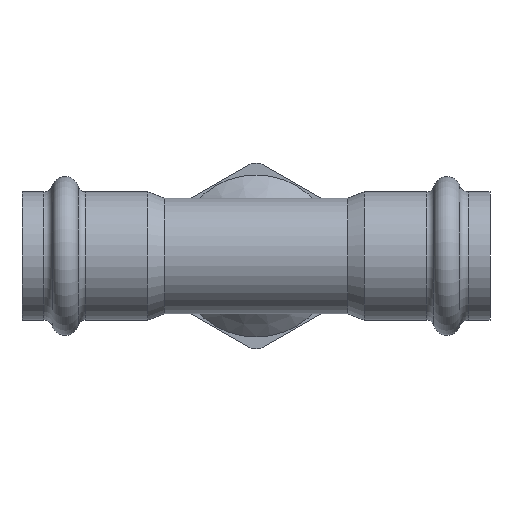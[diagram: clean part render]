
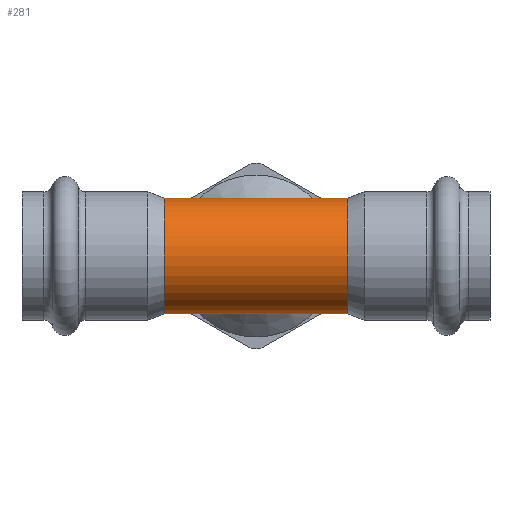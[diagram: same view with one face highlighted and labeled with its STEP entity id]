
A CAD part, front view. The second image highlights one B-rep face of the part: STEP entity #281.
In plain terms, the highlighted cylindrical face has radius 16 mm (diameter 32 mm), a full revolution.
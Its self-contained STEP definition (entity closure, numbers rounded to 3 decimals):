
#101=ELLIPSE('',#831,23.345,16.);
#102=ELLIPSE('',#832,23.345,16.);
#127=CYLINDRICAL_SURFACE('',#834,16.);
#163=FACE_BOUND('',#371,.T.);
#164=FACE_BOUND('',#372,.T.);
#165=FACE_BOUND('',#373,.T.);
#239=CIRCLE('',#829,16.);
#240=CIRCLE('',#833,16.);
#281=ADVANCED_FACE('',(#163,#164,#165),#127,.T.);
#371=EDGE_LOOP('',(#501,#502));
#372=EDGE_LOOP('',(#503));
#373=EDGE_LOOP('',(#504));
#501=ORIENTED_EDGE('',*,*,#706,.T.);
#502=ORIENTED_EDGE('',*,*,#707,.T.);
#503=ORIENTED_EDGE('',*,*,#708,.T.);
#504=ORIENTED_EDGE('',*,*,#705,.F.);
#629=VERTEX_POINT('',#1223);
#630=VERTEX_POINT('',#1226);
#631=VERTEX_POINT('',#1227);
#632=VERTEX_POINT('',#1230);
#705=EDGE_CURVE('',#629,#629,#239,.T.);
#706=EDGE_CURVE('',#630,#631,#101,.T.);
#707=EDGE_CURVE('',#631,#630,#102,.T.);
#708=EDGE_CURVE('',#632,#632,#240,.T.);
#829=AXIS2_PLACEMENT_3D('',#1222,#994,#995);
#831=AXIS2_PLACEMENT_3D('',#1225,#998,#999);
#832=AXIS2_PLACEMENT_3D('',#1228,#1000,#1001);
#833=AXIS2_PLACEMENT_3D('',#1229,#1002,#1003);
#834=AXIS2_PLACEMENT_3D('',#1231,#1004,#1005);
#994=DIRECTION('',(-1.,0.,0.));
#995=DIRECTION('',(0.,0.,1.));
#998=DIRECTION('',(0.685,-0.728,0.));
#999=DIRECTION('',(0.728,0.685,0.));
#1000=DIRECTION('',(-0.685,-0.728,0.));
#1001=DIRECTION('',(-0.728,0.685,0.));
#1002=DIRECTION('',(-1.,0.,0.));
#1003=DIRECTION('',(0.,0.,1.));
#1004=DIRECTION('',(-1.,0.,0.));
#1005=DIRECTION('',(0.,0.,1.));
#1222=CARTESIAN_POINT('',(-25.524,0.,0.));
#1223=CARTESIAN_POINT('',(-25.524,0.,16.));
#1225=CARTESIAN_POINT('',(0.,0.,0.));
#1226=CARTESIAN_POINT('',(0.,0.,-16.));
#1227=CARTESIAN_POINT('',(0.,0.,16.));
#1228=CARTESIAN_POINT('',(0.,0.,0.));
#1229=CARTESIAN_POINT('',(25.524,0.,0.));
#1230=CARTESIAN_POINT('',(25.524,0.,16.));
#1231=CARTESIAN_POINT('',(-16.,0.,0.));
